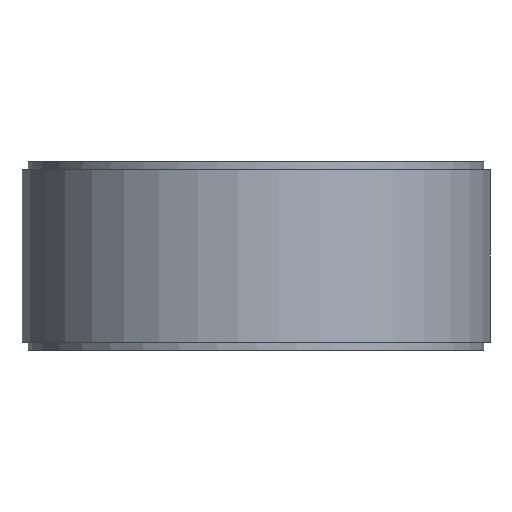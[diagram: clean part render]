
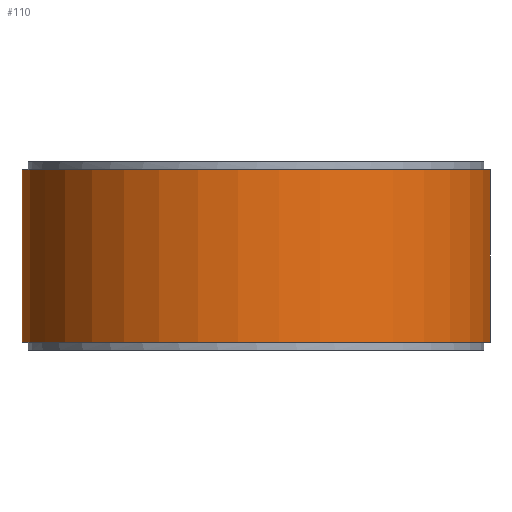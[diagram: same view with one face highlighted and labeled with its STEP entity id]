
A CAD part, front view. The second image highlights one B-rep face of the part: STEP entity #110.
In plain terms, the highlighted cylindrical face has radius 22.9 mm (diameter 45.8 mm), a full revolution.
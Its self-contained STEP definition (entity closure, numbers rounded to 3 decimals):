
#110=ADVANCED_FACE('',(#217,#218),#175,.T.);
#175=CYLINDRICAL_SURFACE('',#1078,22.9);
#217=FACE_BOUND('',#325,.T.);
#218=FACE_BOUND('',#326,.T.);
#325=EDGE_LOOP('',(#461));
#326=EDGE_LOOP('',(#462));
#461=ORIENTED_EDGE('',*,*,#663,.F.);
#462=ORIENTED_EDGE('',*,*,#664,.T.);
#595=VERTEX_POINT('',#1624);
#596=VERTEX_POINT('',#1627);
#663=EDGE_CURVE('',#595,#595,#744,.T.);
#664=EDGE_CURVE('',#596,#596,#745,.T.);
#744=CIRCLE('',#1075,22.9);
#745=CIRCLE('',#1077,22.9);
#1075=AXIS2_PLACEMENT_3D('',#1623,#1274,#1275);
#1077=AXIS2_PLACEMENT_3D('',#1626,#1278,#1279);
#1078=AXIS2_PLACEMENT_3D('',#1628,#1280,#1281);
#1274=DIRECTION('',(0.,0.,1.));
#1275=DIRECTION('',(0.075,0.997,0.));
#1278=DIRECTION('',(0.,0.,1.));
#1279=DIRECTION('',(0.075,0.997,0.));
#1280=DIRECTION('',(0.,0.,1.));
#1281=DIRECTION('',(1.,0.,0.));
#1623=CARTESIAN_POINT('',(0.,0.,8.4));
#1624=CARTESIAN_POINT('',(1.711,22.836,8.4));
#1626=CARTESIAN_POINT('',(0.,0.,-8.4));
#1627=CARTESIAN_POINT('',(1.711,22.836,-8.4));
#1628=CARTESIAN_POINT('',(0.,0.,-8.4));
